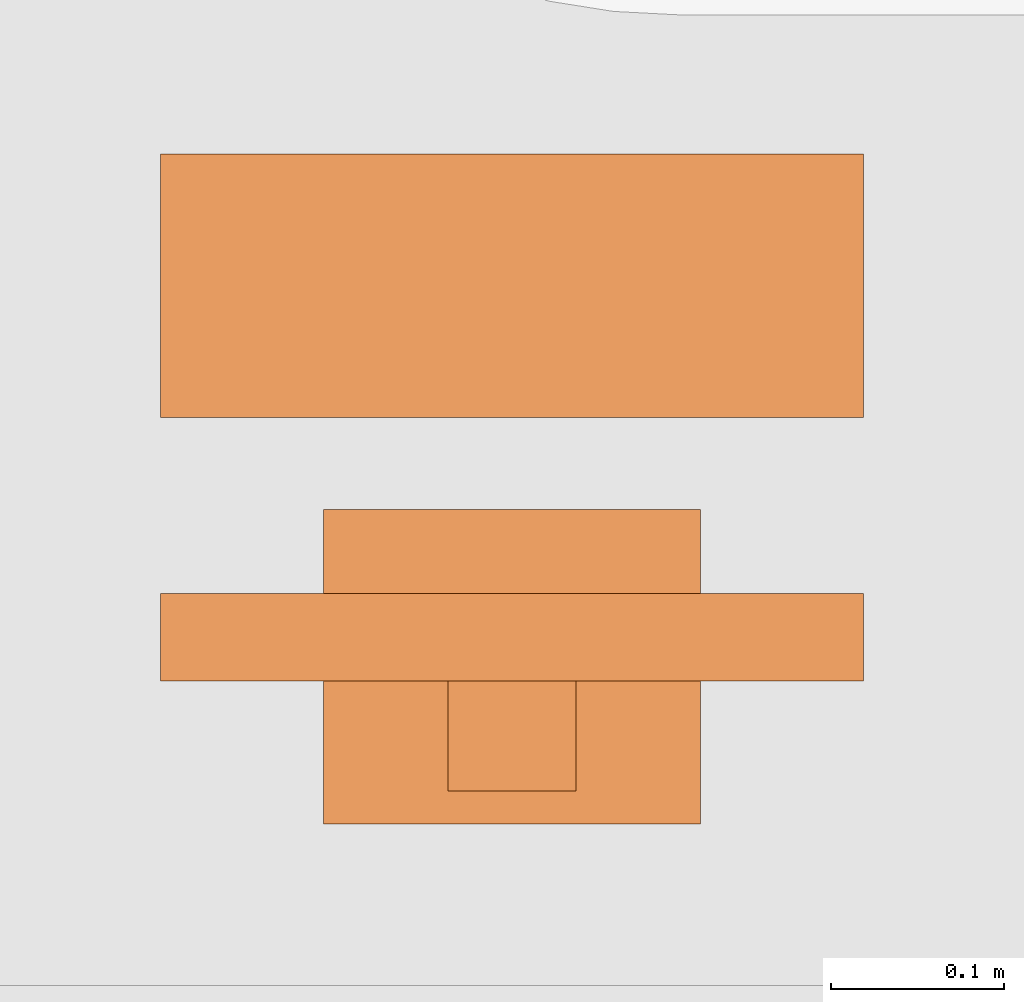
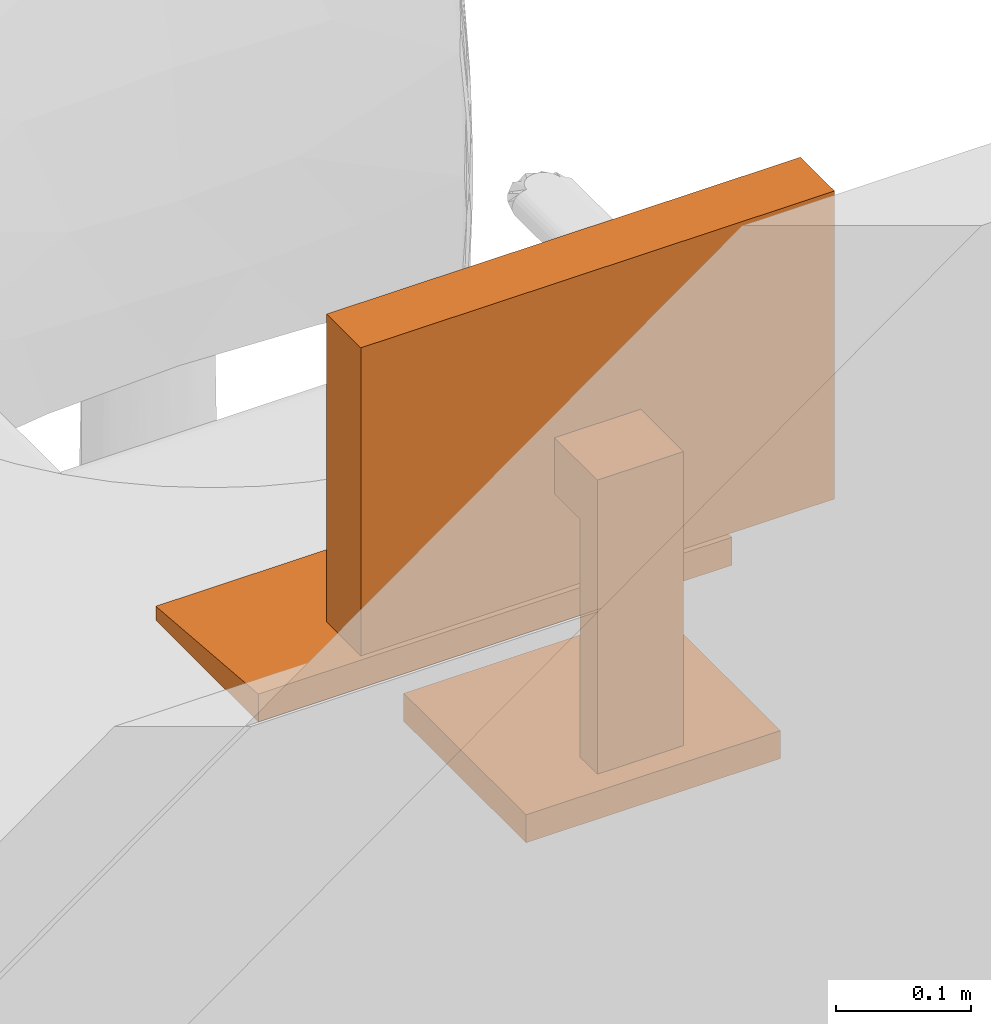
# One storey, part 79 of 142: 1 proxy.
"""IFC2X3 building model written with IfcOpenShell, lengths in feet."""

from ifc_helpers import new_model, entity, si_unit, converted_unit, derived_unit, direction, frame, origin, place, context, subcontext, project, spatial, faceted_brep, source, transform, mapped, type_object, type_shapes, element, save


model = new_model("IFC2X3")

# Units and contexts
model_context = context("Model", 3, precision=0.0001, world=origin(), true_north=direction((6.12303176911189e-17, 1.0)))
body_context = subcontext(model_context, "Body", "Model", "MODEL_VIEW")
ifc_project = project(units=[converted_unit("LENGTHUNIT", "FOOT", entity("IfcRatioMeasure", 0.3048), si_unit("LENGTHUNIT", "METRE"), dimensions=[1, 0, 0, 0, 0, 0, 0]), converted_unit("AREAUNIT", "SQUARE FOOT", entity("IfcRatioMeasure", 0.09290304), si_unit("AREAUNIT", "SQUARE_METRE"), dimensions=[2, 0, 0, 0, 0, 0, 0]), converted_unit("VOLUMEUNIT", "CUBIC FOOT", entity("IfcRatioMeasure", 0.028316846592), si_unit("VOLUMEUNIT", "CUBIC_METRE"), dimensions=[3, 0, 0, 0, 0, 0, 0]), converted_unit("PLANEANGLEUNIT", "DEGREE", entity("IfcRatioMeasure", 0.0174532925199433), si_unit("PLANEANGLEUNIT", "RADIAN"), dimensions=[0, 0, 0, 0, 0, 0, 0]), si_unit("MASSUNIT", "GRAM", prefix="KILO"), derived_unit("MASSDENSITYUNIT", [(si_unit("MASSUNIT", "GRAM", prefix="KILO"), 1), (si_unit("LENGTHUNIT", "METRE"), -3)]), si_unit("TIMEUNIT", "SECOND"), si_unit("FREQUENCYUNIT", "HERTZ"), si_unit("THERMODYNAMICTEMPERATUREUNIT", "DEGREE_CELSIUS"), derived_unit("THERMALTRANSMITTANCEUNIT", [(si_unit("MASSUNIT", "GRAM", prefix="KILO"), 1), (si_unit("THERMODYNAMICTEMPERATUREUNIT", "KELVIN"), -1), (si_unit("TIMEUNIT", "SECOND"), -3)]), derived_unit("VOLUMETRICFLOWRATEUNIT", [(si_unit("LENGTHUNIT", "METRE"), 3), (si_unit("TIMEUNIT", "SECOND"), -1)]), si_unit("ELECTRICCURRENTUNIT", "AMPERE"), si_unit("ELECTRICVOLTAGEUNIT", "VOLT"), si_unit("POWERUNIT", "WATT"), si_unit("FORCEUNIT", "NEWTON"), si_unit("ILLUMINANCEUNIT", "LUX"), si_unit("LUMINOUSFLUXUNIT", "LUMEN"), si_unit("LUMINOUSINTENSITYUNIT", "CANDELA"), derived_unit("USERDEFINED", [(si_unit("MASSUNIT", "GRAM", prefix="KILO"), -1), (si_unit("LENGTHUNIT", "METRE"), -2), (si_unit("TIMEUNIT", "SECOND"), 3), (si_unit("LUMINOUSFLUXUNIT", "LUMEN"), 1)]), derived_unit("LINEARVELOCITYUNIT", [(si_unit("LENGTHUNIT", "METRE"), 1), (si_unit("TIMEUNIT", "SECOND"), -1)]), si_unit("PRESSUREUNIT", "PASCAL"), derived_unit("USERDEFINED", [(si_unit("LENGTHUNIT", "METRE"), -2), (si_unit("MASSUNIT", "GRAM", prefix="KILO"), 1), (si_unit("TIMEUNIT", "SECOND"), -2)])], contexts=[model_context])

# Site, building, storey, space
site_placement = place(None, origin())
site = spatial("IfcSite", under=ifc_project, at=site_placement, Name="Default", CompositionType="ELEMENT")
building_placement = place(site_placement, origin())
building = spatial("IfcBuilding", under=site, at=building_placement, Name="OUTPATIENT / PACT CLINIC (Ch. 265)", CompositionType="ELEMENT")
storey_placement = place(building_placement, origin())
storey = spatial("IfcBuildingStorey", under=building, at=storey_placement, Name="LEVEL 1", CompositionType="ELEMENT", Elevation=0.0)
space_placement = place(storey_placement, origin())
space = spatial("IfcSpace", under=storey, at=space_placement, Name="WRTM1", CompositionType="ELEMENT", InteriorOrExteriorSpace="INTERNAL")

# Proxy
building_element_proxy_type = type_object("IfcBuildingElementProxyType", Name="M1801 - Computer with Flat Panel Monitor", PredefinedType="NOTDEFINED")
shared_shape = source(origin(), body_context, "Body", "Brep", [
    faceted_brep([(0.666666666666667, 0.5625, 0.0), (0.666666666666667, 0.5625, 0.0416666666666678), (0.666666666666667, 0.0624999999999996, 0.0833333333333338), (0.666666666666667, 0.0624999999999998, 0.0), (-0.666666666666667, 0.5625, 0.0), (-0.666666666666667, 0.0624999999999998, 0.0), (-0.666666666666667, 0.0624999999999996, 0.0833333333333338), (-0.666666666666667, 0.5625, 0.0416666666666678)], [[[0, 1, 2, 3]], [[4, 5, 6, 7]], [[3, 5, 4, 0]], [[2, 6, 5, 3]], [[1, 7, 6, 2]], [[0, 4, 7, 1]]]),
    faceted_brep([(0.666666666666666, -0.437223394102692, 1.41666666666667), (0.666666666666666, -0.271109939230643, 1.41666666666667), (-0.666666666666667, -0.271109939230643, 1.41666666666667), (-0.666666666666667, -0.437223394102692, 1.41666666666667), (0.666666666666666, -0.437223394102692, 0.500000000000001), (-0.666666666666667, -0.437223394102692, 0.500000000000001), (-0.666666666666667, -0.271109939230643, 0.500000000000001), (0.666666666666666, -0.271109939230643, 0.500000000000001), (-0.625, -0.271109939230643, 1.375), (-0.625, -0.271109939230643, 0.541666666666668), (0.625, -0.271109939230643, 0.541666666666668), (0.625, -0.271109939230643, 1.375), (0.625, -0.286812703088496, 1.375), (-0.625, -0.286812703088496, 1.375), (0.625, -0.286812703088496, 0.541666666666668), (-0.625, -0.286812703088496, 0.541666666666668)], [[[0, 1, 2, 3]], [[4, 5, 6, 7]], [[3, 5, 4, 0]], [[2, 6, 5, 3]], [[8, 9, 10, 11], [1, 7, 6, 2]], [[0, 4, 7, 1]], [[12, 13, 8, 11]], [[14, 10, 9, 15]], [[12, 14, 15, 13]], [[13, 15, 9, 8]], [[11, 10, 14, 12]]], outer=[[True], [True], [True], [True], [False, True], [True], [True], [True], [True], [True], [True]]),
    faceted_brep([(0.358011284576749, -0.111770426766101, 0.0833333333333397), (0.358011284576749, -0.708333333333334, 0.0833333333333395), (0.358011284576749, -0.708333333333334, 0.0), (0.358011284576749, -0.111770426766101, 0.0), (-0.358011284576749, -0.708333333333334, 0.0833333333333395), (-0.358011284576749, -0.111770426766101, 0.0833333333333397), (-0.358011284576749, -0.111770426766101, 0.0), (-0.358011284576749, -0.708333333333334, 0.0), (0.12128795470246, -0.645556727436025, 0.104166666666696), (-0.12128795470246, -0.645556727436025, 0.104166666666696), (-0.12128795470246, -0.645556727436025, 0.0833333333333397), (0.12128795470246, -0.645556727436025, 0.0833333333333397), (0.12128795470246, -0.645556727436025, 0.958333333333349), (-0.12128795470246, -0.645556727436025, 0.958333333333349), (0.12128795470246, -0.437223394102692, 0.958333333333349), (-0.12128795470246, -0.437223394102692, 0.958333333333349), (0.12128795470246, -0.437223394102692, 0.791666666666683), (-0.12128795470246, -0.437223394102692, 0.791666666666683), (0.12128795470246, -0.562223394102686, 0.791666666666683), (-0.12128795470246, -0.562223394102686, 0.791666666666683), (0.12128795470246, -0.562223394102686, 0.0833333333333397), (-0.12128795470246, -0.562223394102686, 0.0833333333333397)], [[[0, 1, 2, 3]], [[4, 5, 6, 7]], [[8, 9, 10, 11]], [[12, 13, 9, 8]], [[14, 15, 13, 12]], [[16, 17, 15, 14]], [[18, 19, 17, 16]], [[20, 21, 19, 18]], [[11, 10, 21, 20], [0, 5, 4, 1]], [[3, 6, 5, 0]], [[2, 7, 6, 3]], [[1, 4, 7, 2]], [[20, 18, 16, 14, 12, 8, 11]], [[10, 9, 13, 15, 17, 19, 21]]], outer=[[True], [True], [True], [True], [True], [True], [True], [True], [False, True], [True], [True], [True], [True], [True]]),
])
type_shapes(building_element_proxy_type, [shared_shape])
proxy_placement = place(space_placement, frame((411.711481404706, -934.455377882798, 2.49999999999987)))
element("IfcBuildingElementProxy", 1, at=proxy_placement, inside=space, type_object=building_element_proxy_type, Name="M1801 - Computer with Flat Panel Monitor:M1801 - Computer with Flat Panel Monitor", ObjectType="M1801 - Computer with Flat Panel Monitor", context=body_context, shape_type="MappedRepresentation", body=[
    mapped(shared_shape, transform((0.0, 0.0, 0.0), scale=1.0)),
])

save(model, "model.ifc")
